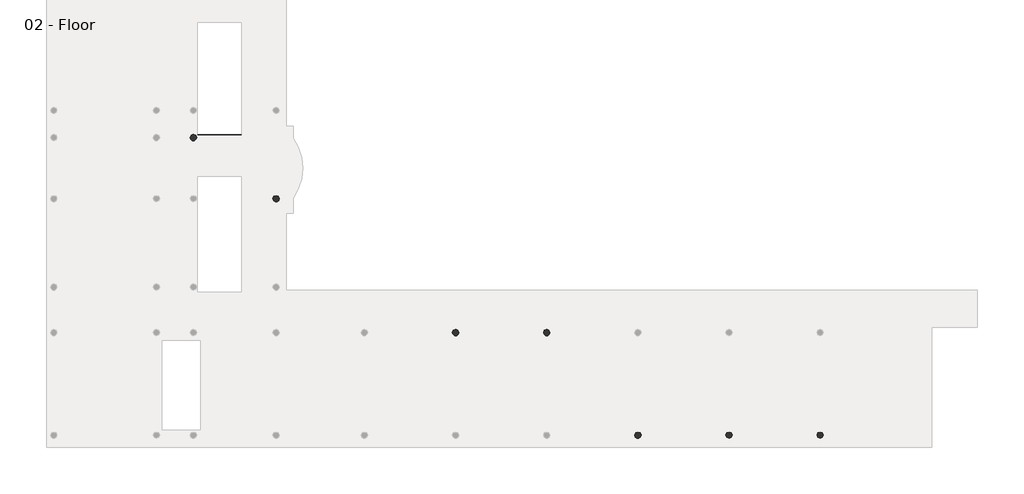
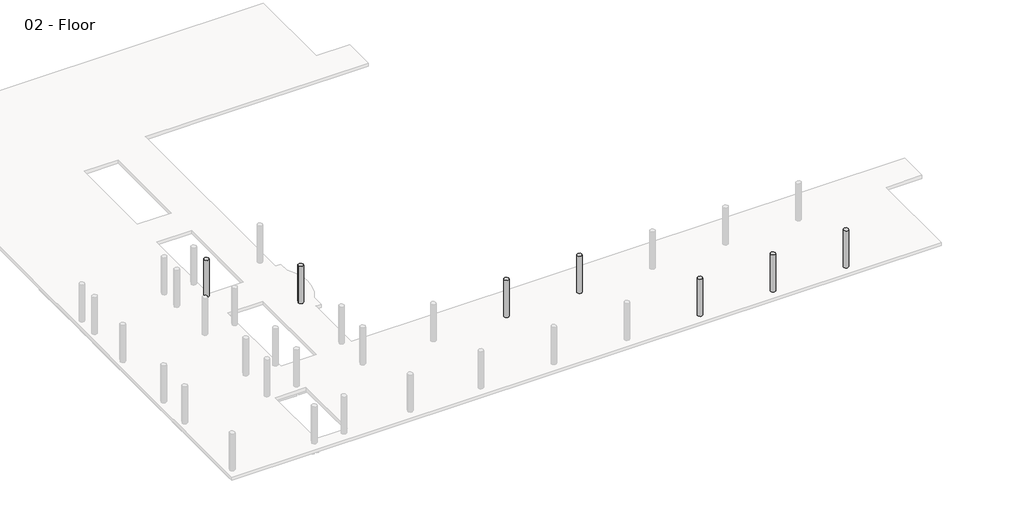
# One storey, part 4 of 9: 13 beams, 7 columns.
"""IFC4 building model written with IfcOpenShell, lengths in millimetres."""

from ifc_helpers import new_model, si_unit, point, frame, frame_2d, origin, place, context, project, spatial, polyline, circle_curve, trimmed, segment, composite_curve, outline, extrude, element, save
from ifc_brep_helpers import plane_surface, revolved_surface, advanced_brep

model = new_model("IFC4")

# Units and contexts
model_context = context("Model", 3, world=origin())
ifc_project = project(units=[si_unit("LENGTHUNIT", "METRE", prefix="MILLI")], contexts=[model_context])

# Site, building, storey
site = spatial("IfcSite", under=ifc_project)
building = spatial("IfcBuilding", under=site)
storey = spatial("IfcBuildingStorey", under=building, Name="02 - Floor", Elevation=3800.0)

# Beams
placement = place(None, origin())
element("IfcBeam", 1, ObjectType="M_Concrete-Rectangular Beam : 300 x 600mm", at=placement, inside=storey, context=model_context, shape_type="SweptSolid", body=[
    extrude(outline(composite_curve([segment(polyline([(19299.2005584, -12296.3611817), (19599.2005584, -12296.3611817), (19599.2005584, -15119.8613801), (19552.278199, -15119.8613801)]), True, "CONTINUOUS"), segment(trimmed(circle_curve(frame_2d((19449.2005584, -15319.8613801)), 225.0), [point((19552.278199, -15119.8613801))], [point((19346.1229178, -15119.8613801))], True, "CARTESIAN"), True, "CONTINUOUS"), segment(polyline([(19346.1229178, -15119.8613801), (19299.2005584, -15119.8613801), (19299.2005584, -12296.3611817)]), True, "CONTINUOUS")], self_intersect=False)), frame((0.0, 0.0, 3200.0), z_axis=(0.0, 0.0, 1.0), x_axis=(1.0, 0.0, 0.0)), (0.0, 0.0, 1.0), 300.0),
])
element("IfcBeam", 2, ObjectType="M_Concrete-Rectangular Beam : 300 x 600mm", at=placement, inside=storey, context=model_context, shape_type="SweptSolid", body=[
    extrude(outline(composite_curve([segment(polyline([(25801.6005584, -12296.3611817), (26101.6005584, -12296.3611817), (26101.6005584, -15119.8613801), (26054.678199, -15119.8613801)]), True, "CONTINUOUS"), segment(trimmed(circle_curve(frame_2d((25951.6005584, -15319.8613801)), 225.0), [point((26054.678199, -15119.8613801))], [point((25848.5229178, -15119.8613801))], True, "CARTESIAN"), True, "CONTINUOUS"), segment(polyline([(25848.5229178, -15119.8613801), (25801.6005584, -15119.8613801), (25801.6005584, -12296.3611817)]), True, "CONTINUOUS")], self_intersect=False)), frame((0.0, 0.0, 3200.0), z_axis=(0.0, 0.0, 1.0), x_axis=(1.0, 0.0, 0.0)), (0.0, 0.0, 1.0), 300.0),
])
element("IfcBeam", 3, ObjectType="M_Concrete-Rectangular Beam : 400 x 800mm", at=placement, inside=storey, context=model_context, shape_type="AdvancedBrep", body=[
    advanced_brep(
    [(554.8005584, -1310.2837394, 3000.0), (554.8005584, -1310.2837394, 3500.0), (554.8005584, -1213.3613801, 3500.0), (554.8005584, 329.7386199, 3500.0), (554.8005584, 329.7386199, 3000.0), (554.8005584, -1213.3613801, 3000.0), (954.8005584, 426.6609793, 3000.0), (954.8005584, -1213.3613801, 3000.0), (954.8005584, -1310.2837394, 3000.0), (651.7229178, 329.7386199, 3000.0), (954.8005584, 426.6609793, 3500.0), (954.8005584, -1213.3613801, 3500.0), (954.8005584, -1310.2837394, 3500.0), (651.7229178, 329.7386199, 3500.0)],
    [
        (0, 1),
        (1, 2),
        (2, 3),
        (3, 4),
        (4, 5),
        (5, 0),
        (6, 7),
        (7, 8),
        (8, 0, circle_curve(frame((754.8005584, -1413.3613801, 3000.0), z_axis=(0.0, 0.0, 1.0), x_axis=(-1.0, 0.0, 0.0)), 225.0)),
        (4, 9),
        (9, 6, circle_curve(frame((754.8005584, 529.7386199, 3000.0), z_axis=(0.0, 0.0, 1.0), x_axis=(-1.0, 0.0, 0.0)), 225.0)),
        (6, 10),
        (10, 11),
        (11, 12),
        (12, 8),
        (9, 13),
        (13, 10, circle_curve(frame((754.8005584, 529.7386199, 3500.0), z_axis=(0.0, 0.0, 1.0), x_axis=(-1.0, 0.0, 0.0)), 225.0)),
        (12, 1, circle_curve(frame((754.8005584, -1413.3613801, 3500.0), z_axis=(0.0, 0.0, 1.0), x_axis=(-1.0, 0.0, 0.0)), 225.0)),
        (13, 3),
    ],
    [
        plane_surface(frame((554.8005584, -1175.6613801, 3400.0), z_axis=(-1.0, 0.0, 0.0), x_axis=(0.0, 0.0, -1.0))),
        plane_surface(frame((754.8005584, -1175.6613801, 3000.0), z_axis=(0.0, 0.0, -1.0), x_axis=(1.0, 0.0, 0.0))),
        plane_surface(frame((954.8005584, -1175.6613801, 3400.0), z_axis=(1.0, 0.0, 0.0), x_axis=(0.0, 0.0, 1.0))),
        revolved_surface(polyline([(529.8005584, 529.7386199, 3500.0), (529.8005584, 529.7386199, 3000.0)]), (754.8005584, 529.7386199, 0.0), (0.0, 0.0, 1.0)),
        revolved_surface(polyline([(529.8005584, -1413.3613801, 3500.0), (529.8005584, -1413.3613801, 3000.0)]), (754.8005584, -1413.3613801, 0.0), (0.0, 0.0, 1.0)),
        plane_surface(frame((24268.8999097, 30514.0407562, 3500.0), z_axis=(0.0, 0.0, 1.0), x_axis=(0.0, -1.0, 0.0))),
        plane_surface(frame((-1649.0994416, 329.7386199, 3400.0), z_axis=(0.0, 1.0, 0.0), x_axis=(0.0, 0.0, 1.0))),
    ],
    [
        (0, [[1, 2, 3, 4, 5, 6]]),
        (1, [[7, 8, 9, -6, -5, 10, 11]]),
        (2, [[-8, -7, 12, 13, 14, 15]]),
        (3, [[-12, -11, 16, 17]]),
        (4, [[-9, -15, 18, -1]]),
        (5, [[-14, -13, -17, 19, -3, -2, -18]]),
        (6, [[-4, -19, -16, -10]]),
    ],
),
])
element("IfcBeam", 4, ObjectType="M_Concrete-Rectangular Beam : 400 x 800mm", at=placement, inside=storey, context=model_context, shape_type="AdvancedBrep", body=[
    advanced_brep(
    [(554.8005584, -1516.4390207, 3000.0), (554.8005584, -1613.3613801, 3000.0), (554.8005584, -5569.4613801, 3000.0), (554.8005584, -5666.3837394, 3000.0), (554.8005584, -5666.3837394, 3500.0), (554.8005584, -5569.4613801, 3500.0), (554.8005584, -1613.3613801, 3500.0), (554.8005584, -1516.4390207, 3500.0), (954.8005584, -5666.3837394, 3000.0), (857.878199, -1613.3613801, 3000.0), (954.8005584, -1613.3613801, 3000.0), (954.8005584, -1613.3613801, 3500.0), (954.8005584, -5666.3837394, 3500.0), (857.878199, -1613.3613801, 3500.0)],
    [
        (0, 1),
        (1, 2),
        (2, 3),
        (3, 4),
        (4, 5),
        (5, 6),
        (6, 7),
        (7, 0),
        (8, 3, circle_curve(frame((754.8005584, -5769.4613801, 3000.0), z_axis=(0.0, 0.0, 1.0), x_axis=(-1.0, 0.0, 0.0)), 225.0)),
        (0, 9, circle_curve(frame((754.8005584, -1413.3613801, 3000.0), z_axis=(0.0, 0.0, 1.0), x_axis=(-1.0, 0.0, 0.0)), 225.0)),
        (9, 10),
        (10, 8),
        (10, 11),
        (11, 12),
        (12, 8),
        (12, 4, circle_curve(frame((754.8005584, -5769.4613801, 3500.0), z_axis=(0.0, 0.0, 1.0), x_axis=(-1.0, 0.0, 0.0)), 225.0)),
        (7, 13, circle_curve(frame((754.8005584, -1413.3613801, 3500.0), z_axis=(0.0, 0.0, 1.0), x_axis=(-1.0, 0.0, 0.0)), 225.0)),
        (13, 9),
        (13, 11),
    ],
    [
        plane_surface(frame((554.8005584, -5531.7613801, 3400.0), z_axis=(-1.0, 0.0, 0.0), x_axis=(0.0, 0.0, -1.0))),
        plane_surface(frame((754.8005584, -5531.7613801, 3000.0), z_axis=(0.0, 0.0, -1.0), x_axis=(1.0, 0.0, 0.0))),
        plane_surface(frame((954.8005584, -5531.7613801, 3400.0), z_axis=(1.0, 0.0, 0.0), x_axis=(0.0, 0.0, 1.0))),
        revolved_surface(polyline([(529.8005584, -5769.4613801, 3500.0), (529.8005584, -5769.4613801, 3000.0)]), (754.8005584, -5769.4613801, 0.0), (0.0, 0.0, 1.0)),
        revolved_surface(polyline([(529.8005584, -1413.3613801, 3500.0), (529.8005584, -1413.3613801, 3000.0)]), (754.8005584, -1413.3613801, 0.0), (0.0, 0.0, 1.0)),
        plane_surface(frame((992.5005584, -1613.3613801, 3400.0), z_axis=(0.0, 1.0, 0.0), x_axis=(0.0, 0.0, 1.0))),
        plane_surface(frame((24268.8999097, 30514.0407562, 3500.0), z_axis=(0.0, 0.0, 1.0), x_axis=(0.0, -1.0, 0.0))),
    ],
    [
        (0, [[1, 2, 3, 4, 5, 6, 7, 8]]),
        (1, [[9, -3, -2, -1, 10, 11, 12]]),
        (2, [[-12, 13, 14, 15]]),
        (3, [[-9, -15, 16, -4]]),
        (4, [[-10, -8, 17, 18]]),
        (5, [[-11, -18, 19, -13]]),
        (6, [[-7, -6, -5, -16, -14, -19, -17]]),
    ],
),
])
element("IfcBeam", 5, ObjectType="M_Concrete-Rectangular Beam : 400 x 800mm", at=placement, inside=storey, context=model_context, shape_type="AdvancedBrep", body=[
    advanced_brep(
    [(6447.6005584, 426.6609793, 3000.0), (6447.6005584, -1213.3613801, 3000.0), (6447.6005584, -1613.3613801, 3000.0), (6447.6005584, -1613.3613801, 3500.0), (6447.6005584, -1213.3613801, 3500.0), (6447.6005584, 426.6609793, 3500.0), (6847.6005584, -1613.3613801, 3000.0), (6847.6005584, 426.6609793, 3000.0), (6847.6005584, 426.6609793, 3500.0), (6847.6005584, -1613.3613801, 3500.0)],
    [
        (0, 1),
        (1, 2),
        (2, 3),
        (3, 4),
        (4, 5),
        (5, 0),
        (6, 2),
        (0, 7, circle_curve(frame((6647.6005584, 529.7386199, 3000.0), z_axis=(0.0, 0.0, 1.0), x_axis=(-1.0, 0.0, 0.0)), 225.0)),
        (7, 6),
        (7, 8),
        (8, 9),
        (9, 6),
        (9, 3),
        (5, 8, circle_curve(frame((6647.6005584, 529.7386199, 3500.0), z_axis=(0.0, 0.0, 1.0), x_axis=(-1.0, 0.0, 0.0)), 225.0)),
    ],
    [
        plane_surface(frame((6447.6005584, -1200.6613801, 3800.0), z_axis=(-1.0, 0.0, 0.0), x_axis=(0.0, 1.0, 0.0))),
        plane_surface(frame((6447.6005584, -1200.6613801, 3000.0), z_axis=(0.0, 0.0, -1.0), x_axis=(0.0, 1.0, 0.0))),
        plane_surface(frame((6847.6005584, -1200.6613801, 3000.0), z_axis=(1.0, 0.0, 0.0), x_axis=(0.0, 1.0, 0.0))),
        plane_surface(frame((6871.5296419, -1613.3613801, 3800.0), z_axis=(0.0, -1.0, 0.0), x_axis=(-1.0, 0.0, 0.0))),
        revolved_surface(polyline([(6422.6005584, 529.7386199, 3500.0), (6422.6005584, 529.7386199, 3000.0)]), (6647.6005584, 529.7386199, 0.0), (0.0, 0.0, 1.0)),
        plane_surface(frame((24268.8999097, 30514.0407562, 3500.0), z_axis=(0.0, 0.0, 1.0), x_axis=(0.0, -1.0, 0.0))),
    ],
    [
        (0, [[1, 2, 3, 4, 5, 6]]),
        (1, [[7, -2, -1, 8, 9]]),
        (2, [[-9, 10, 11, 12]]),
        (3, [[-7, -12, 13, -3]]),
        (4, [[-8, -6, 14, -10]]),
        (5, [[-5, -4, -13, -11, -14]]),
    ],
),
])
element("IfcBeam", 6, ObjectType="M_Concrete-Rectangular Beam : 400 x 800mm", at=placement, inside=storey, context=model_context, shape_type="SweptSolid", body=[
    extrude(outline(composite_curve([segment(trimmed(circle_curve(frame_2d((6647.6005584, -5769.4613801)), 225.0), [point((6847.6005584, -5666.3837394))], [point((6447.6005584, -5666.3837394))], True, "CARTESIAN"), True, "CONTINUOUS"), segment(polyline([(6447.6005584, -5666.3837394), (6447.6005584, -1613.3613801), (6847.6005584, -1613.3613801), (6847.6005584, -5666.3837394)]), True, "CONTINUOUS")], self_intersect=False)), frame((0.0, 0.0, 3000.0), z_axis=(0.0, 0.0, 1.0), x_axis=(1.0, 0.0, 0.0)), (0.0, 0.0, 1.0), 500.0),
])
element("IfcBeam", 7, ObjectType="M_Concrete-Rectangular Beam : 400 x 800mm", at=placement, inside=storey, context=model_context, shape_type="AdvancedBrep", body=[
    advanced_brep(
    [(32350.9229178, -15119.8613801, 3000.0), (26054.678199, -15119.8613801, 3000.0), (26054.678199, -15119.8613801, 3200.0), (26054.678199, -15119.8613801, 3500.0), (26101.6005584, -15119.8613801, 3500.0), (32304.0005584, -15119.8613801, 3500.0), (32350.9229178, -15119.8613801, 3500.0), (32350.9229178, -15119.8613801, 3200.0), (26176.6005584, -15319.8613801, 3000.0), (32229.0005584, -15319.8613801, 3000.0), (32350.9229178, -15519.8613801, 3000.0), (26054.678199, -15519.8613801, 3000.0), (32350.9229178, -15519.8613801, 3200.0), (32304.0005584, -15519.8613801, 3200.0), (32304.0005584, -15519.8613801, 3500.0), (26101.6005584, -15519.8613801, 3500.0), (26054.678199, -15519.8613801, 3500.0), (26054.678199, -15519.8613801, 3200.0), (26176.6005584, -15319.8613801, 3500.0), (32304.0005584, -15487.5664784, 3200.0), (32304.0005584, -15487.5664784, 3500.0), (32229.0005584, -15319.8613801, 3500.0)],
    [
        (0, 1),
        (1, 2),
        (2, 3),
        (3, 4),
        (4, 5),
        (5, 6),
        (6, 7),
        (7, 0),
        (8, 1, circle_curve(frame((25951.6005584, -15319.8613801, 3000.0), z_axis=(0.0, 0.0, 1.0), x_axis=(-1.0, 0.0, 0.0)), 225.0)),
        (0, 9, circle_curve(frame((32454.0005584, -15319.8613801, 3000.0), z_axis=(0.0, 0.0, 1.0), x_axis=(-1.0, 0.0, 0.0)), 225.0)),
        (9, 10, circle_curve(frame((32454.0005584, -15319.8613801, 3000.0), z_axis=(0.0, 0.0, 1.0), x_axis=(-1.0, 0.0, 0.0)), 225.0)),
        (10, 11),
        (11, 8, circle_curve(frame((25951.6005584, -15319.8613801, 3000.0), z_axis=(0.0, 0.0, 1.0), x_axis=(-1.0, 0.0, 0.0)), 225.0)),
        (10, 12),
        (12, 13),
        (13, 14),
        (14, 15),
        (15, 16),
        (16, 17),
        (17, 11),
        (16, 18, circle_curve(frame((25951.6005584, -15319.8613801, 3500.0), z_axis=(0.0, 0.0, 1.0), x_axis=(-1.0, 0.0, 0.0)), 225.0)),
        (18, 8),
        (18, 3, circle_curve(frame((25951.6005584, -15319.8613801, 3500.0), z_axis=(0.0, 0.0, 1.0), x_axis=(-1.0, 0.0, 0.0)), 225.0)),
        (13, 19),
        (19, 20),
        (20, 14),
        (12, 19, circle_curve(frame((32454.0005584, -15319.8613801, 3200.0), z_axis=(0.0, 0.0, -1.0), x_axis=(-1.0, 0.0, 0.0)), 225.0)),
        (9, 21),
        (21, 20, circle_curve(frame((32454.0005584, -15319.8613801, 3500.0), z_axis=(0.0, 0.0, 1.0), x_axis=(-1.0, 0.0, 0.0)), 225.0)),
        (6, 21, circle_curve(frame((32454.0005584, -15319.8613801, 3500.0), z_axis=(0.0, 0.0, 1.0), x_axis=(-1.0, 0.0, 0.0)), 225.0)),
    ],
    [
        plane_surface(frame((26189.3005584, -15119.8613801, 3400.0), z_axis=(0.0, 1.0, 0.0), x_axis=(0.0, 0.0, -1.0))),
        plane_surface(frame((26189.3005584, -15319.8613801, 3000.0), z_axis=(0.0, 0.0, -1.0), x_axis=(0.0, -1.0, 0.0))),
        plane_surface(frame((26189.3005584, -15519.8613801, 3400.0), z_axis=(0.0, -1.0, 0.0), x_axis=(0.0, 0.0, 1.0))),
        revolved_surface(polyline([(25726.6005584, -15319.8613801, 3500.0), (25726.6005584, -15319.8613801, 3000.0)]), (25951.6005584, -15319.8613801, 0.0), (0.0, 0.0, 1.0)),
        plane_surface(frame((32304.0005584, -22397.3613801, 3800.0), z_axis=(1.0, 0.0, 0.0), x_axis=(0.0, 1.0, 0.0))),
        plane_surface(frame((32304.0005584, -22397.3613801, 3200.0), z_axis=(0.0, 0.0, 1.0), x_axis=(0.0, 1.0, 0.0))),
        revolved_surface(polyline([(32229.0005584, -15319.8613801, 3500.0), (32229.0005584, -15319.8613801, 3000.0)]), (32454.0005584, -15319.8613801, 0.0), (0.0, 0.0, 1.0)),
        plane_surface(frame((24268.8999097, 30514.0407562, 3500.0), z_axis=(0.0, 0.0, 1.0), x_axis=(0.0, -1.0, 0.0))),
    ],
    [
        (0, [[1, 2, 3, 4, 5, 6, 7, 8]]),
        (1, [[9, -1, 10, 11, 12, 13]]),
        (2, [[-12, 14, 15, 16, 17, 18, 19, 20]]),
        (3, [[-13, -20, -19, 21, 22]]),
        (3, [[-9, -22, 23, -3, -2]]),
        (4, [[24, 25, 26, -16]]),
        (5, [[-15, 27, -24]]),
        (6, [[-11, 28, 29, -25, -27, -14]]),
        (6, [[-10, -8, -7, 30, -28]]),
        (7, [[-6, -5, -4, -23, -21, -18, -17, -26, -29, -30]]),
    ],
),
])
element("IfcBeam", 8, ObjectType="M_Concrete-Rectangular Beam : 400 x 800mm", at=placement, inside=storey, context=model_context, shape_type="AdvancedBrep", body=[
    advanced_brep(
    [(25848.5229178, -15119.8613801, 3000.0), (19552.278199, -15119.8613801, 3000.0), (19552.278199, -15119.8613801, 3200.0), (19552.278199, -15119.8613801, 3500.0), (19599.2005584, -15119.8613801, 3500.0), (25801.6005584, -15119.8613801, 3500.0), (25848.5229178, -15119.8613801, 3500.0), (25848.5229178, -15119.8613801, 3200.0), (19674.2005584, -15319.8613801, 3000.0), (25726.6005584, -15319.8613801, 3000.0), (25848.5229178, -15519.8613801, 3000.0), (19552.278199, -15519.8613801, 3000.0), (25848.5229178, -15519.8613801, 3200.0), (25801.6005584, -15519.8613801, 3200.0), (25801.6005584, -15519.8613801, 3500.0), (19599.2005584, -15519.8613801, 3500.0), (19552.278199, -15519.8613801, 3500.0), (19552.278199, -15519.8613801, 3200.0), (19674.2005584, -15319.8613801, 3500.0), (25801.6005584, -15487.5664784, 3200.0), (25801.6005584, -15487.5664784, 3500.0), (25726.6005584, -15319.8613801, 3500.0)],
    [
        (0, 1),
        (1, 2),
        (2, 3),
        (3, 4),
        (4, 5),
        (5, 6),
        (6, 7),
        (7, 0),
        (8, 1, circle_curve(frame((19449.2005584, -15319.8613801, 3000.0), z_axis=(0.0, 0.0, 1.0), x_axis=(-1.0, 0.0, 0.0)), 225.0)),
        (0, 9, circle_curve(frame((25951.6005584, -15319.8613801, 3000.0), z_axis=(0.0, 0.0, 1.0), x_axis=(-1.0, 0.0, 0.0)), 225.0)),
        (9, 10, circle_curve(frame((25951.6005584, -15319.8613801, 3000.0), z_axis=(0.0, 0.0, 1.0), x_axis=(-1.0, 0.0, 0.0)), 225.0)),
        (10, 11),
        (11, 8, circle_curve(frame((19449.2005584, -15319.8613801, 3000.0), z_axis=(0.0, 0.0, 1.0), x_axis=(-1.0, 0.0, 0.0)), 225.0)),
        (10, 12),
        (12, 13),
        (13, 14),
        (14, 15),
        (15, 16),
        (16, 17),
        (17, 11),
        (16, 18, circle_curve(frame((19449.2005584, -15319.8613801, 3500.0), z_axis=(0.0, 0.0, 1.0), x_axis=(-1.0, 0.0, 0.0)), 225.0)),
        (18, 8),
        (18, 3, circle_curve(frame((19449.2005584, -15319.8613801, 3500.0), z_axis=(0.0, 0.0, 1.0), x_axis=(-1.0, 0.0, 0.0)), 225.0)),
        (13, 19),
        (19, 20),
        (20, 14),
        (12, 19, circle_curve(frame((25951.6005584, -15319.8613801, 3200.0), z_axis=(0.0, 0.0, -1.0), x_axis=(-1.0, 0.0, 0.0)), 225.0)),
        (9, 21),
        (21, 20, circle_curve(frame((25951.6005584, -15319.8613801, 3500.0), z_axis=(0.0, 0.0, 1.0), x_axis=(-1.0, 0.0, 0.0)), 225.0)),
        (6, 21, circle_curve(frame((25951.6005584, -15319.8613801, 3500.0), z_axis=(0.0, 0.0, 1.0), x_axis=(-1.0, 0.0, 0.0)), 225.0)),
    ],
    [
        plane_surface(frame((19686.9005584, -15119.8613801, 3400.0), z_axis=(0.0, 1.0, 0.0), x_axis=(0.0, 0.0, -1.0))),
        plane_surface(frame((19686.9005584, -15319.8613801, 3000.0), z_axis=(0.0, 0.0, -1.0), x_axis=(0.0, -1.0, 0.0))),
        plane_surface(frame((19686.9005584, -15519.8613801, 3400.0), z_axis=(0.0, -1.0, 0.0), x_axis=(0.0, 0.0, 1.0))),
        revolved_surface(polyline([(19224.2005584, -15319.8613801, 3500.0), (19224.2005584, -15319.8613801, 3000.0)]), (19449.2005584, -15319.8613801, 0.0), (0.0, 0.0, 1.0)),
        plane_surface(frame((25801.6005584, -22397.3613801, 3800.0), z_axis=(1.0, 0.0, 0.0), x_axis=(0.0, 1.0, 0.0))),
        plane_surface(frame((25801.6005584, -22397.3613801, 3200.0), z_axis=(0.0, 0.0, 1.0), x_axis=(0.0, 1.0, 0.0))),
        revolved_surface(polyline([(25726.6005584, -15319.8613801, 3500.0), (25726.6005584, -15319.8613801, 3000.0)]), (25951.6005584, -15319.8613801, 0.0), (0.0, 0.0, 1.0)),
        plane_surface(frame((24268.8999097, 30514.0407562, 3500.0), z_axis=(0.0, 0.0, 1.0), x_axis=(0.0, -1.0, 0.0))),
    ],
    [
        (0, [[1, 2, 3, 4, 5, 6, 7, 8]]),
        (1, [[9, -1, 10, 11, 12, 13]]),
        (2, [[-12, 14, 15, 16, 17, 18, 19, 20]]),
        (3, [[-13, -20, -19, 21, 22]]),
        (3, [[-9, -22, 23, -3, -2]]),
        (4, [[24, 25, 26, -16]]),
        (5, [[-15, 27, -24]]),
        (6, [[-11, 28, 29, -25, -27, -14]]),
        (6, [[-10, -8, -7, 30, -28]]),
        (7, [[-6, -5, -4, -23, -21, -18, -17, -26, -29, -30]]),
    ],
),
])
element("IfcBeam", 9, ObjectType="M_Concrete-Rectangular Beam : 400 x 800mm", at=placement, inside=storey, context=model_context, shape_type="AdvancedBrep", body=[
    advanced_brep(
    [(19346.1229178, -15119.8613801, 3000.0), (13049.878199, -15119.8613801, 3000.0), (13049.878199, -15119.8613801, 3200.0), (13049.878199, -15119.8613801, 3500.0), (13096.8005584, -15119.8613801, 3500.0), (19299.2005584, -15119.8613801, 3500.0), (19346.1229178, -15119.8613801, 3500.0), (19346.1229178, -15119.8613801, 3200.0), (13171.8005584, -15319.8613801, 3000.0), (19224.2005584, -15319.8613801, 3000.0), (19346.1229178, -15519.8613801, 3000.0), (13049.878199, -15519.8613801, 3000.0), (19346.1229178, -15519.8613801, 3200.0), (19299.2005584, -15519.8613801, 3200.0), (19299.2005584, -15519.8613801, 3500.0), (13096.8005584, -15519.8613801, 3500.0), (13049.878199, -15519.8613801, 3500.0), (13049.878199, -15519.8613801, 3200.0), (13171.8005584, -15319.8613801, 3500.0), (19299.2005584, -15487.5664784, 3200.0), (19299.2005584, -15487.5664784, 3500.0), (19224.2005584, -15319.8613801, 3500.0)],
    [
        (0, 1),
        (1, 2),
        (2, 3),
        (3, 4),
        (4, 5),
        (5, 6),
        (6, 7),
        (7, 0),
        (8, 1, circle_curve(frame((12946.8005584, -15319.8613801, 3000.0), z_axis=(0.0, 0.0, 1.0), x_axis=(-1.0, 0.0, 0.0)), 225.0)),
        (0, 9, circle_curve(frame((19449.2005584, -15319.8613801, 3000.0), z_axis=(0.0, 0.0, 1.0), x_axis=(-1.0, 0.0, 0.0)), 225.0)),
        (9, 10, circle_curve(frame((19449.2005584, -15319.8613801, 3000.0), z_axis=(0.0, 0.0, 1.0), x_axis=(-1.0, 0.0, 0.0)), 225.0)),
        (10, 11),
        (11, 8, circle_curve(frame((12946.8005584, -15319.8613801, 3000.0), z_axis=(0.0, 0.0, 1.0), x_axis=(-1.0, 0.0, 0.0)), 225.0)),
        (10, 12),
        (12, 13),
        (13, 14),
        (14, 15),
        (15, 16),
        (16, 17),
        (17, 11),
        (16, 18, circle_curve(frame((12946.8005584, -15319.8613801, 3500.0), z_axis=(0.0, 0.0, 1.0), x_axis=(-1.0, 0.0, 0.0)), 225.0)),
        (18, 8),
        (18, 3, circle_curve(frame((12946.8005584, -15319.8613801, 3500.0), z_axis=(0.0, 0.0, 1.0), x_axis=(-1.0, 0.0, 0.0)), 225.0)),
        (13, 19),
        (19, 20),
        (20, 14),
        (12, 19, circle_curve(frame((19449.2005584, -15319.8613801, 3200.0), z_axis=(0.0, 0.0, -1.0), x_axis=(-1.0, 0.0, 0.0)), 225.0)),
        (9, 21),
        (21, 20, circle_curve(frame((19449.2005584, -15319.8613801, 3500.0), z_axis=(0.0, 0.0, 1.0), x_axis=(-1.0, 0.0, 0.0)), 225.0)),
        (6, 21, circle_curve(frame((19449.2005584, -15319.8613801, 3500.0), z_axis=(0.0, 0.0, 1.0), x_axis=(-1.0, 0.0, 0.0)), 225.0)),
    ],
    [
        plane_surface(frame((13184.5005584, -15119.8613801, 3400.0), z_axis=(0.0, 1.0, 0.0), x_axis=(0.0, 0.0, -1.0))),
        plane_surface(frame((13184.5005584, -15319.8613801, 3000.0), z_axis=(0.0, 0.0, -1.0), x_axis=(0.0, -1.0, 0.0))),
        plane_surface(frame((13184.5005584, -15519.8613801, 3400.0), z_axis=(0.0, -1.0, 0.0), x_axis=(0.0, 0.0, 1.0))),
        revolved_surface(polyline([(12721.8005584, -15319.8613801, 3500.0), (12721.8005584, -15319.8613801, 3000.0)]), (12946.8005584, -15319.8613801, 0.0), (0.0, 0.0, 1.0)),
        plane_surface(frame((19299.2005584, -22397.3613801, 3800.0), z_axis=(1.0, 0.0, 0.0), x_axis=(0.0, 1.0, 0.0))),
        plane_surface(frame((19299.2005584, -22397.3613801, 3200.0), z_axis=(0.0, 0.0, 1.0), x_axis=(0.0, 1.0, 0.0))),
        revolved_surface(polyline([(19224.2005584, -15319.8613801, 3500.0), (19224.2005584, -15319.8613801, 3000.0)]), (19449.2005584, -15319.8613801, 0.0), (0.0, 0.0, 1.0)),
        plane_surface(frame((24268.8999097, 30514.0407562, 3500.0), z_axis=(0.0, 0.0, 1.0), x_axis=(0.0, -1.0, 0.0))),
    ],
    [
        (0, [[1, 2, 3, 4, 5, 6, 7, 8]]),
        (1, [[9, -1, 10, 11, 12, 13]]),
        (2, [[-12, 14, 15, 16, 17, 18, 19, 20]]),
        (3, [[-13, -20, -19, 21, 22]]),
        (3, [[-9, -22, 23, -3, -2]]),
        (4, [[24, 25, 26, -16]]),
        (5, [[-15, 27, -24]]),
        (6, [[-11, 28, 29, -25, -27, -14]]),
        (6, [[-10, -8, -7, 30, -28]]),
        (7, [[-6, -5, -4, -23, -21, -18, -17, -26, -29, -30]]),
    ],
),
])
element("IfcBeam", 10, ObjectType="M_Concrete-Rectangular Beam : 400 x 800mm", at=placement, inside=storey, context=model_context, shape_type="AdvancedBrep", body=[
    advanced_brep(
    [(53429.578114, -22435.0613801, 3000.0), (45561.878199, -22435.0613801, 3000.0), (45561.878199, -22435.0613801, 3200.0), (45561.878199, -22435.0613801, 3500.0), (45608.8005584, -22435.0613801, 3500.0), (53429.578114, -22435.0613801, 3500.0), (45683.8005584, -22635.0613801, 3000.0), (53429.578114, -22835.0613801, 3000.0), (45561.878199, -22835.0613801, 3000.0), (53429.578114, -22835.0613801, 3500.0), (45561.878199, -22835.0613801, 3500.0), (45683.8005584, -22635.0613801, 3500.0)],
    [
        (0, 1),
        (1, 2),
        (2, 3),
        (3, 4),
        (4, 5),
        (5, 0),
        (6, 1, circle_curve(frame((45458.8005584, -22635.0613801, 3000.0), z_axis=(0.0, 0.0, 1.0), x_axis=(-1.0, 0.0, 0.0)), 225.0)),
        (0, 7),
        (7, 8),
        (8, 6, circle_curve(frame((45458.8005584, -22635.0613801, 3000.0), z_axis=(0.0, 0.0, 1.0), x_axis=(-1.0, 0.0, 0.0)), 225.0)),
        (7, 9),
        (9, 10),
        (10, 8),
        (10, 11, circle_curve(frame((45458.8005584, -22635.0613801, 3500.0), z_axis=(0.0, 0.0, 1.0), x_axis=(-1.0, 0.0, 0.0)), 225.0)),
        (11, 6),
        (11, 3, circle_curve(frame((45458.8005584, -22635.0613801, 3500.0), z_axis=(0.0, 0.0, 1.0), x_axis=(-1.0, 0.0, 0.0)), 225.0)),
        (5, 9),
    ],
    [
        plane_surface(frame((45696.5005584, -22435.0613801, 3400.0), z_axis=(0.0, 1.0, 0.0), x_axis=(0.0, 0.0, -1.0))),
        plane_surface(frame((45696.5005584, -22635.0613801, 3000.0), z_axis=(0.0, 0.0, -1.0), x_axis=(0.0, -1.0, 0.0))),
        plane_surface(frame((45696.5005584, -22835.0613801, 3400.0), z_axis=(0.0, -1.0, 0.0), x_axis=(0.0, 0.0, 1.0))),
        revolved_surface(polyline([(45233.8005584, -22635.0613801, 3500.0), (45233.8005584, -22635.0613801, 3000.0)]), (45458.8005584, -22635.0613801, 0.0), (0.0, 0.0, 1.0)),
        plane_surface(frame((53429.578114, -14931.1613815, 0.0), z_axis=(1.0, 0.0, 0.0), x_axis=(0.0, -1.0, 0.0))),
        plane_surface(frame((24268.8999097, 30514.0407562, 3500.0), z_axis=(0.0, 0.0, 1.0), x_axis=(0.0, -1.0, 0.0))),
    ],
    [
        (0, [[1, 2, 3, 4, 5, 6]]),
        (1, [[7, -1, 8, 9, 10]]),
        (2, [[-9, 11, 12, 13]]),
        (3, [[-10, -13, 14, 15]]),
        (3, [[-7, -15, 16, -3, -2]]),
        (4, [[-8, -6, 17, -11]]),
        (5, [[-5, -4, -16, -14, -12, -17]]),
    ],
),
])
element("IfcBeam", 11, ObjectType="M_Concrete-Rectangular Beam : 400 x 800mm", at=placement, inside=storey, context=model_context, shape_type="AdvancedBrep", body=[
    advanced_brep(
    [(45308.8005584, -22435.0613801, 3200.0), (45355.7229178, -22435.0613801, 3200.0), (45355.7229178, -22435.0613801, 3000.0), (39059.478199, -22435.0613801, 3000.0), (39059.478199, -22435.0613801, 3200.0), (39059.478199, -22435.0613801, 3500.0), (39106.4005584, -22435.0613801, 3500.0), (45308.8005584, -22435.0613801, 3500.0), (39181.4005584, -22635.0613801, 3000.0), (45233.8005584, -22635.0613801, 3000.0), (45355.7229178, -22835.0613801, 3000.0), (39059.478199, -22835.0613801, 3000.0), (45355.7229178, -22835.0613801, 3500.0), (39059.478199, -22835.0613801, 3500.0), (39181.4005584, -22635.0613801, 3500.0), (45308.8005584, -22467.3562817, 3200.0), (45308.8005584, -22467.3562817, 3500.0), (45233.8005584, -22635.0613801, 3500.0)],
    [
        (0, 1),
        (1, 2),
        (2, 3),
        (3, 4),
        (4, 5),
        (5, 6),
        (6, 7),
        (7, 0),
        (8, 3, circle_curve(frame((38956.4005584, -22635.0613801, 3000.0), z_axis=(0.0, 0.0, 1.0), x_axis=(-1.0, 0.0, 0.0)), 225.0)),
        (2, 9, circle_curve(frame((45458.8005584, -22635.0613801, 3000.0), z_axis=(0.0, 0.0, 1.0), x_axis=(-1.0, 0.0, 0.0)), 225.0)),
        (9, 10, circle_curve(frame((45458.8005584, -22635.0613801, 3000.0), z_axis=(0.0, 0.0, 1.0), x_axis=(-1.0, 0.0, 0.0)), 225.0)),
        (10, 11),
        (11, 8, circle_curve(frame((38956.4005584, -22635.0613801, 3000.0), z_axis=(0.0, 0.0, 1.0), x_axis=(-1.0, 0.0, 0.0)), 225.0)),
        (10, 12),
        (12, 13),
        (13, 11),
        (13, 14, circle_curve(frame((38956.4005584, -22635.0613801, 3500.0), z_axis=(0.0, 0.0, 1.0), x_axis=(-1.0, 0.0, 0.0)), 225.0)),
        (14, 8),
        (14, 5, circle_curve(frame((38956.4005584, -22635.0613801, 3500.0), z_axis=(0.0, 0.0, 1.0), x_axis=(-1.0, 0.0, 0.0)), 225.0)),
        (15, 0),
        (7, 16),
        (16, 15),
        (15, 1, circle_curve(frame((45458.8005584, -22635.0613801, 3200.0), z_axis=(0.0, 0.0, -1.0), x_axis=(-1.0, 0.0, 0.0)), 225.0)),
        (9, 17),
        (17, 12, circle_curve(frame((45458.8005584, -22635.0613801, 3500.0), z_axis=(0.0, 0.0, 1.0), x_axis=(-1.0, 0.0, 0.0)), 225.0)),
        (16, 17, circle_curve(frame((45458.8005584, -22635.0613801, 3500.0), z_axis=(0.0, 0.0, 1.0), x_axis=(-1.0, 0.0, 0.0)), 225.0)),
    ],
    [
        plane_surface(frame((39194.1005584, -22435.0613801, 3400.0), z_axis=(0.0, 1.0, 0.0), x_axis=(0.0, 0.0, -1.0))),
        plane_surface(frame((39194.1005584, -22635.0613801, 3000.0), z_axis=(0.0, 0.0, -1.0), x_axis=(0.0, -1.0, 0.0))),
        plane_surface(frame((39194.1005584, -22835.0613801, 3400.0), z_axis=(0.0, -1.0, 0.0), x_axis=(0.0, 0.0, 1.0))),
        revolved_surface(polyline([(38731.4005584, -22635.0613801, 3500.0), (38731.4005584, -22635.0613801, 3000.0)]), (38956.4005584, -22635.0613801, 0.0), (0.0, 0.0, 1.0)),
        plane_surface(frame((45308.8005584, -22397.3613801, 3800.0), z_axis=(1.0, 0.0, 0.0), x_axis=(0.0, 1.0, 0.0))),
        plane_surface(frame((45308.8005584, -22397.3613801, 3200.0), z_axis=(0.0, 0.0, 1.0), x_axis=(0.0, 1.0, 0.0))),
        revolved_surface(polyline([(45233.8005584, -22635.0613801, 3500.0), (45233.8005584, -22635.0613801, 3000.0)]), (45458.8005584, -22635.0613801, 0.0), (0.0, 0.0, 1.0)),
        plane_surface(frame((24268.8999097, 30514.0407562, 3500.0), z_axis=(0.0, 0.0, 1.0), x_axis=(0.0, -1.0, 0.0))),
    ],
    [
        (0, [[1, 2, 3, 4, 5, 6, 7, 8]]),
        (1, [[9, -3, 10, 11, 12, 13]]),
        (2, [[-12, 14, 15, 16]]),
        (3, [[-13, -16, 17, 18]]),
        (3, [[-9, -18, 19, -5, -4]]),
        (4, [[20, -8, 21, 22]]),
        (5, [[-1, -20, 23]]),
        (6, [[-11, 24, 25, -14]]),
        (6, [[-2, -23, -22, 26, -24, -10]]),
        (7, [[-7, -6, -19, -17, -15, -25, -26, -21]]),
    ],
),
])
element("IfcBeam", 12, ObjectType="M_Concrete-Rectangular Beam : 400 x 800mm", at=placement, inside=storey, context=model_context, shape_type="AdvancedBrep", body=[
    advanced_brep(
    [(38806.4005584, -22435.0613801, 3200.0), (38853.3229178, -22435.0613801, 3200.0), (38853.3229178, -22435.0613801, 3000.0), (32557.078199, -22435.0613801, 3000.0), (32557.078199, -22435.0613801, 3200.0), (32557.078199, -22435.0613801, 3500.0), (32604.0005584, -22435.0613801, 3500.0), (38806.4005584, -22435.0613801, 3500.0), (32679.0005584, -22635.0613801, 3000.0), (38731.4005584, -22635.0613801, 3000.0), (38853.3229178, -22835.0613801, 3000.0), (32557.078199, -22835.0613801, 3000.0), (38853.3229178, -22835.0613801, 3500.0), (32557.078199, -22835.0613801, 3500.0), (32679.0005584, -22635.0613801, 3500.0), (38806.4005584, -22467.3562817, 3200.0), (38806.4005584, -22467.3562817, 3500.0), (38731.4005584, -22635.0613801, 3500.0)],
    [
        (0, 1),
        (1, 2),
        (2, 3),
        (3, 4),
        (4, 5),
        (5, 6),
        (6, 7),
        (7, 0),
        (8, 3, circle_curve(frame((32454.0005584, -22635.0613801, 3000.0), z_axis=(0.0, 0.0, 1.0), x_axis=(-1.0, 0.0, 0.0)), 225.0)),
        (2, 9, circle_curve(frame((38956.4005584, -22635.0613801, 3000.0), z_axis=(0.0, 0.0, 1.0), x_axis=(-1.0, 0.0, 0.0)), 225.0)),
        (9, 10, circle_curve(frame((38956.4005584, -22635.0613801, 3000.0), z_axis=(0.0, 0.0, 1.0), x_axis=(-1.0, 0.0, 0.0)), 225.0)),
        (10, 11),
        (11, 8, circle_curve(frame((32454.0005584, -22635.0613801, 3000.0), z_axis=(0.0, 0.0, 1.0), x_axis=(-1.0, 0.0, 0.0)), 225.0)),
        (10, 12),
        (12, 13),
        (13, 11),
        (13, 14, circle_curve(frame((32454.0005584, -22635.0613801, 3500.0), z_axis=(0.0, 0.0, 1.0), x_axis=(-1.0, 0.0, 0.0)), 225.0)),
        (14, 8),
        (14, 5, circle_curve(frame((32454.0005584, -22635.0613801, 3500.0), z_axis=(0.0, 0.0, 1.0), x_axis=(-1.0, 0.0, 0.0)), 225.0)),
        (15, 0),
        (7, 16),
        (16, 15),
        (15, 1, circle_curve(frame((38956.4005584, -22635.0613801, 3200.0), z_axis=(0.0, 0.0, -1.0), x_axis=(-1.0, 0.0, 0.0)), 225.0)),
        (9, 17),
        (17, 12, circle_curve(frame((38956.4005584, -22635.0613801, 3500.0), z_axis=(0.0, 0.0, 1.0), x_axis=(-1.0, 0.0, 0.0)), 225.0)),
        (16, 17, circle_curve(frame((38956.4005584, -22635.0613801, 3500.0), z_axis=(0.0, 0.0, 1.0), x_axis=(-1.0, 0.0, 0.0)), 225.0)),
    ],
    [
        plane_surface(frame((32691.7005584, -22435.0613801, 3400.0), z_axis=(0.0, 1.0, 0.0), x_axis=(0.0, 0.0, -1.0))),
        plane_surface(frame((32691.7005584, -22635.0613801, 3000.0), z_axis=(0.0, 0.0, -1.0), x_axis=(0.0, -1.0, 0.0))),
        plane_surface(frame((32691.7005584, -22835.0613801, 3400.0), z_axis=(0.0, -1.0, 0.0), x_axis=(0.0, 0.0, 1.0))),
        revolved_surface(polyline([(32229.0005584, -22635.0613801, 3500.0), (32229.0005584, -22635.0613801, 3000.0)]), (32454.0005584, -22635.0613801, 0.0), (0.0, 0.0, 1.0)),
        plane_surface(frame((38806.4005584, -22397.3613801, 3800.0), z_axis=(1.0, 0.0, 0.0), x_axis=(0.0, 1.0, 0.0))),
        plane_surface(frame((38806.4005584, -22397.3613801, 3200.0), z_axis=(0.0, 0.0, 1.0), x_axis=(0.0, 1.0, 0.0))),
        revolved_surface(polyline([(38731.4005584, -22635.0613801, 3500.0), (38731.4005584, -22635.0613801, 3000.0)]), (38956.4005584, -22635.0613801, 0.0), (0.0, 0.0, 1.0)),
        plane_surface(frame((24268.8999097, 30514.0407562, 3500.0), z_axis=(0.0, 0.0, 1.0), x_axis=(0.0, -1.0, 0.0))),
    ],
    [
        (0, [[1, 2, 3, 4, 5, 6, 7, 8]]),
        (1, [[9, -3, 10, 11, 12, 13]]),
        (2, [[-12, 14, 15, 16]]),
        (3, [[-13, -16, 17, 18]]),
        (3, [[-9, -18, 19, -5, -4]]),
        (4, [[20, -8, 21, 22]]),
        (5, [[-1, -20, 23]]),
        (6, [[-11, 24, 25, -14]]),
        (6, [[-2, -23, -22, 26, -24, -10]]),
        (7, [[-7, -6, -19, -17, -15, -25, -26, -21]]),
    ],
),
])
element("IfcBeam", 13, ObjectType="M_Concrete-Rectangular Beam : 400 x 800mm", at=placement, inside=storey, context=model_context, shape_type="AdvancedBrep", body=[
    advanced_brep(
    [(6447.6005584, -1213.3613801, 3000.0), (954.8005584, -1213.3613801, 3000.0), (954.8005584, -1213.3613801, 3500.0), (1065.5703938, -1213.3613801, 3500.0), (4175.4703938, -1213.3613801, 3500.0), (6447.6005584, -1213.3613801, 3500.0), (857.878199, -1613.3613801, 3000.0), (979.8005584, -1413.3613801, 3000.0), (954.8005584, -1310.2837394, 3000.0), (6447.6005584, -1613.3613801, 3000.0), (954.8005584, -1613.3613801, 3000.0), (6447.6005584, -1613.3613801, 3500.0), (954.8005584, -1613.3613801, 3500.0), (857.878199, -1613.3613801, 3500.0), (979.8005584, -1413.3613801, 3500.0), (954.8005584, -1310.2837394, 3500.0)],
    [
        (0, 1),
        (1, 2),
        (2, 3),
        (3, 4),
        (4, 5),
        (5, 0),
        (6, 7, circle_curve(frame((754.8005584, -1413.3613801, 3000.0), z_axis=(0.0, 0.0, 1.0), x_axis=(-1.0, 0.0, 0.0)), 225.0)),
        (7, 8, circle_curve(frame((754.8005584, -1413.3613801, 3000.0), z_axis=(0.0, 0.0, 1.0), x_axis=(-1.0, 0.0, 0.0)), 225.0)),
        (8, 1),
        (0, 9),
        (9, 10),
        (10, 6),
        (9, 11),
        (11, 12),
        (12, 13),
        (13, 6),
        (13, 14, circle_curve(frame((754.8005584, -1413.3613801, 3500.0), z_axis=(0.0, 0.0, 1.0), x_axis=(-1.0, 0.0, 0.0)), 225.0)),
        (14, 7),
        (14, 15, circle_curve(frame((754.8005584, -1413.3613801, 3500.0), z_axis=(0.0, 0.0, 1.0), x_axis=(-1.0, 0.0, 0.0)), 225.0)),
        (15, 8),
        (15, 2),
        (5, 11),
    ],
    [
        plane_surface(frame((992.5005584, -1213.3613801, 3400.0), z_axis=(0.0, 1.0, 0.0), x_axis=(0.0, 0.0, -1.0))),
        plane_surface(frame((992.5005584, -1413.3613801, 3000.0), z_axis=(0.0, 0.0, -1.0), x_axis=(0.0, -1.0, 0.0))),
        plane_surface(frame((992.5005584, -1613.3613801, 3400.0), z_axis=(0.0, -1.0, 0.0), x_axis=(0.0, 0.0, 1.0))),
        revolved_surface(polyline([(529.8005584, -1413.3613801, 3500.0), (529.8005584, -1413.3613801, 3000.0)]), (754.8005584, -1413.3613801, 0.0), (0.0, 0.0, 1.0)),
        plane_surface(frame((954.8005584, -1175.6613801, 3400.0), z_axis=(-1.0, 0.0, 0.0), x_axis=(0.0, 0.0, 1.0))),
        plane_surface(frame((6447.6005584, -1200.6613801, 3800.0), z_axis=(1.0, 0.0, 0.0), x_axis=(0.0, 1.0, 0.0))),
        plane_surface(frame((24268.8999097, 30514.0407562, 3500.0), z_axis=(0.0, 0.0, 1.0), x_axis=(0.0, -1.0, 0.0))),
    ],
    [
        (0, [[1, 2, 3, 4, 5, 6]]),
        (1, [[7, 8, 9, -1, 10, 11, 12]]),
        (2, [[-12, -11, 13, 14, 15, 16]]),
        (3, [[-7, -16, 17, 18]]),
        (3, [[-8, -18, 19, 20]]),
        (4, [[-9, -20, 21, -2]]),
        (5, [[-10, -6, 22, -13]]),
        (6, [[-3, -21, -19, -17, -15, -14, -22, -5, -4]]),
    ],
),
])

# Columns
element("IfcColumn", 14, ObjectType="M_Concrete-Round-Column : 450mm", at=placement, inside=storey, context=model_context, shape_type="SweptSolid", body=[
    extrude(outline(composite_curve([segment(trimmed(circle_curve(frame_2d((754.8005584, -1413.3613801)), 225.0), [point((979.8005584, -1413.3613801))], [point((529.8005584, -1413.3613801))], False, "CARTESIAN"), True, "CONTINUOUS"), segment(trimmed(circle_curve(frame_2d((754.8005584, -1413.3613801)), 225.0), [point((529.8005584, -1413.3613801))], [point((979.8005584, -1413.3613801))], False, "CARTESIAN"), True, "CONTINUOUS")], self_intersect=False)), frame((0.0, 0.0, 3800.0), z_axis=(0.0, 0.0, 1.0), x_axis=(1.0, 0.0, 0.0)), (0.0, 0.0, 1.0), 3500.0),
])
element("IfcColumn", 15, ObjectType="M_Concrete-Round-Column : 450mm", at=placement, inside=storey, context=model_context, shape_type="SweptSolid", body=[
    extrude(outline(composite_curve([segment(trimmed(circle_curve(frame_2d((6647.6005584, -5769.4613801)), 225.0), [point((6872.6005584, -5769.4613801))], [point((6422.6005584, -5769.4613801))], False, "CARTESIAN"), True, "CONTINUOUS"), segment(trimmed(circle_curve(frame_2d((6647.6005584, -5769.4613801)), 225.0), [point((6422.6005584, -5769.4613801))], [point((6872.6005584, -5769.4613801))], False, "CARTESIAN"), True, "CONTINUOUS")], self_intersect=False)), frame((0.0, 0.0, 3800.0), z_axis=(0.0, 0.0, 1.0), x_axis=(1.0, 0.0, 0.0)), (0.0, 0.0, 1.0), 3500.0),
])
element("IfcColumn", 16, ObjectType="M_Concrete-Round-Column : 450mm", at=placement, inside=storey, context=model_context, shape_type="SweptSolid", body=[
    extrude(outline(composite_curve([segment(trimmed(circle_curve(frame_2d((19449.2005584, -15319.8613801)), 225.0), [point((19674.2005584, -15319.8613801))], [point((19224.2005584, -15319.8613801))], False, "CARTESIAN"), True, "CONTINUOUS"), segment(trimmed(circle_curve(frame_2d((19449.2005584, -15319.8613801)), 225.0), [point((19224.2005584, -15319.8613801))], [point((19674.2005584, -15319.8613801))], False, "CARTESIAN"), True, "CONTINUOUS")], self_intersect=False)), frame((0.0, 0.0, 3800.0), z_axis=(0.0, 0.0, 1.0), x_axis=(1.0, 0.0, 0.0)), (0.0, 0.0, 1.0), 3500.0),
])
element("IfcColumn", 17, ObjectType="M_Concrete-Round-Column : 450mm", at=placement, inside=storey, context=model_context, shape_type="SweptSolid", body=[
    extrude(outline(composite_curve([segment(trimmed(circle_curve(frame_2d((25951.6005584, -15319.8613801)), 225.0), [point((26176.6005584, -15319.8613801))], [point((25726.6005584, -15319.8613801))], False, "CARTESIAN"), True, "CONTINUOUS"), segment(trimmed(circle_curve(frame_2d((25951.6005584, -15319.8613801)), 225.0), [point((25726.6005584, -15319.8613801))], [point((26176.6005584, -15319.8613801))], False, "CARTESIAN"), True, "CONTINUOUS")], self_intersect=False)), frame((0.0, 0.0, 3800.0), z_axis=(0.0, 0.0, 1.0), x_axis=(1.0, 0.0, 0.0)), (0.0, 0.0, 1.0), 3500.0),
])
element("IfcColumn", 18, ObjectType="M_Concrete-Round-Column : 450mm", at=placement, inside=storey, context=model_context, shape_type="SweptSolid", body=[
    extrude(outline(composite_curve([segment(trimmed(circle_curve(frame_2d((32454.0005584, -22635.0613801)), 225.0), [point((32679.0005584, -22635.0613801))], [point((32229.0005584, -22635.0613801))], False, "CARTESIAN"), True, "CONTINUOUS"), segment(trimmed(circle_curve(frame_2d((32454.0005584, -22635.0613801)), 225.0), [point((32229.0005584, -22635.0613801))], [point((32679.0005584, -22635.0613801))], False, "CARTESIAN"), True, "CONTINUOUS")], self_intersect=False)), frame((0.0, 0.0, 3800.0), z_axis=(0.0, 0.0, 1.0), x_axis=(1.0, 0.0, 0.0)), (0.0, 0.0, 1.0), 3500.0),
])
element("IfcColumn", 19, ObjectType="M_Concrete-Round-Column : 450mm", at=placement, inside=storey, context=model_context, shape_type="SweptSolid", body=[
    extrude(outline(composite_curve([segment(trimmed(circle_curve(frame_2d((38956.4005584, -22635.0613801)), 225.0), [point((39181.4005584, -22635.0613801))], [point((38731.4005584, -22635.0613801))], False, "CARTESIAN"), True, "CONTINUOUS"), segment(trimmed(circle_curve(frame_2d((38956.4005584, -22635.0613801)), 225.0), [point((38731.4005584, -22635.0613801))], [point((39181.4005584, -22635.0613801))], False, "CARTESIAN"), True, "CONTINUOUS")], self_intersect=False)), frame((0.0, 0.0, 3800.0), z_axis=(0.0, 0.0, 1.0), x_axis=(1.0, 0.0, 0.0)), (0.0, 0.0, 1.0), 3500.0),
])
element("IfcColumn", 20, ObjectType="M_Concrete-Round-Column : 450mm", at=placement, inside=storey, context=model_context, shape_type="SweptSolid", body=[
    extrude(outline(composite_curve([segment(trimmed(circle_curve(frame_2d((45458.8005584, -22635.0613801)), 225.0), [point((45683.8005584, -22635.0613801))], [point((45233.8005584, -22635.0613801))], False, "CARTESIAN"), True, "CONTINUOUS"), segment(trimmed(circle_curve(frame_2d((45458.8005584, -22635.0613801)), 225.0), [point((45233.8005584, -22635.0613801))], [point((45683.8005584, -22635.0613801))], False, "CARTESIAN"), True, "CONTINUOUS")], self_intersect=False)), frame((0.0, 0.0, 3800.0), z_axis=(0.0, 0.0, 1.0), x_axis=(1.0, 0.0, 0.0)), (0.0, 0.0, 1.0), 3500.0),
])

save(model, "model.ifc")
